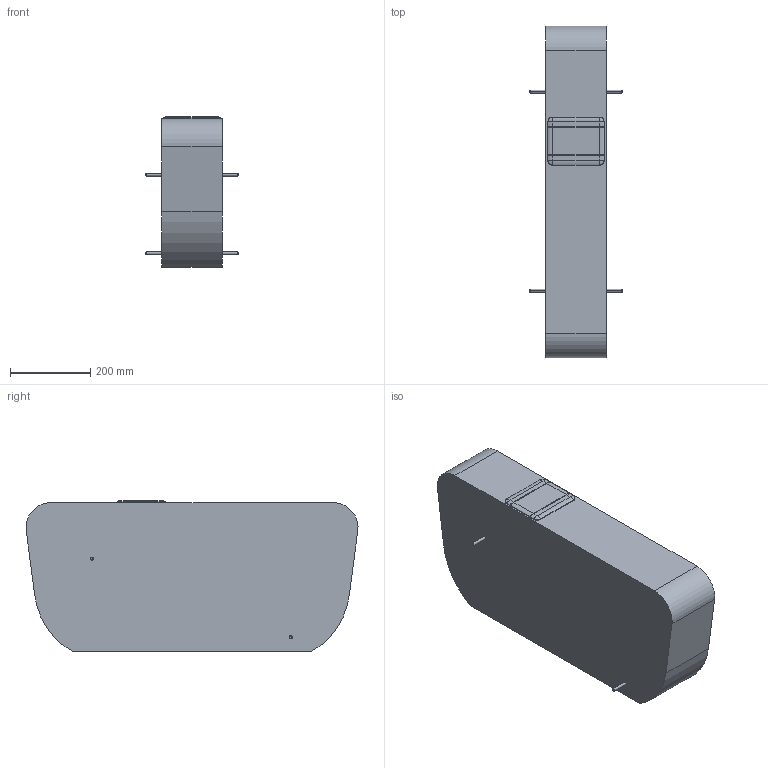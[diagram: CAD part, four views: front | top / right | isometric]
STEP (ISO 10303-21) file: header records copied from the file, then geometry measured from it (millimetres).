
FILE_DESCRIPTION(/* description */ (''),/* implementation_level */ '2;1');
FILE_NAME(/* name */ 'OpenPort spoj+E',/* time_stamp */ '2021-01-18T13:41:52+01:00',/* author */ (''),/* organization */ (''),/* preprocessor_version */ 'ST-DEVELOPER v16.5',/* originating_system */ '',/* authorisation */ '');
FILE_SCHEMA (('CONFIG_CONTROL_DESIGN'));
Length unit declared in the file: millimetre
Products named in the file (1): Document
Bounding box: 230 x 827.51 x 375.5 mm (x, y, z)
Volume: 43023751.8 mm3; surface area: 932402.8 mm2
Topology: 3 solids, 4 shells, 55 faces, 122 edges, 70 vertices
Faces by surface type: plane 23, bspline 20, cylinder 12
Entity records: 1583 total; most frequent: CARTESIAN_POINT 697, ORIENTED_EDGE 224, EDGE_CURVE 116, B_SPLINE_CURVE_WITH_KNOTS 83, VERTEX_POINT 68, ADVANCED_FACE 55, FACE_OUTER_BOUND 55, EDGE_LOOP 55
